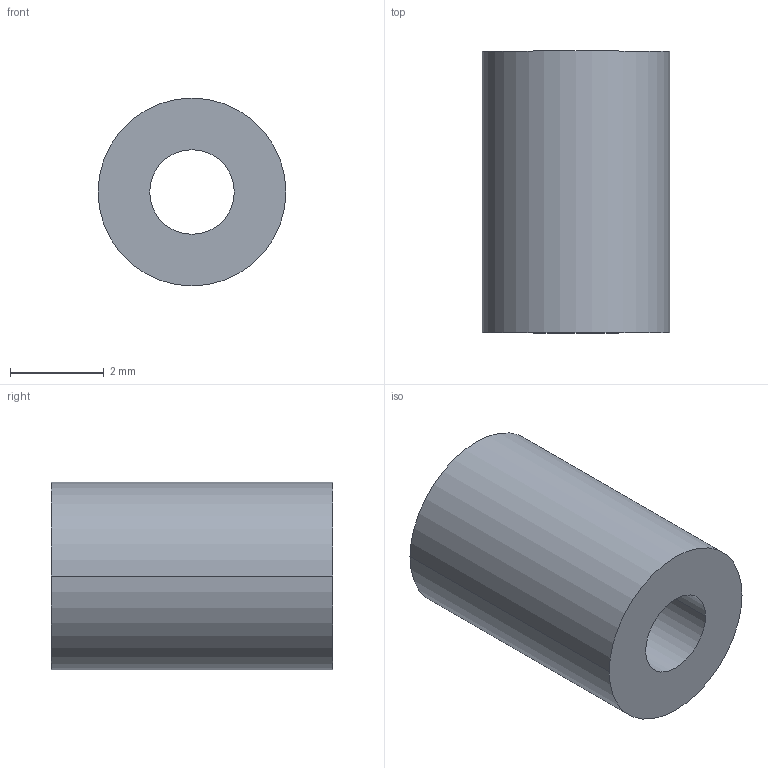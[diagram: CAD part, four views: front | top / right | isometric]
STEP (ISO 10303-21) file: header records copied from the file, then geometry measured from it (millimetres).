
FILE_DESCRIPTION (( 'STEP AP203' ), '1' );
FILE_NAME ('30800.WPP4A1.8.step', '2019-01-23T22:15:16', ( '' ), ( '' ), 'SwSTEP 2.0', 'SolidWorks 2017', '' );
FILE_SCHEMA (( 'CONFIG_CONTROL_DESIGN' ));
Length unit declared in the file: millimetre
Products named in the file (1): 30800.WPP4A1.8
Bounding box: 4 x 6 x 4 mm (x, y, z)
Volume: 58.6 mm3; surface area: 127.4 mm2
Topology: 1 solids, 1 shells, 8 faces, 16 edges, 10 vertices
Faces by surface type: cylinder 4, torus 2, plane 2
Entity records: 297 total; most frequent: DIRECTION 46, CARTESIAN_POINT 35, ORIENTED_EDGE 32, AXIS2_PLACEMENT_3D 21, EDGE_CURVE 16, CIRCLE 12, EDGE_LOOP 10, VERTEX_POINT 10
